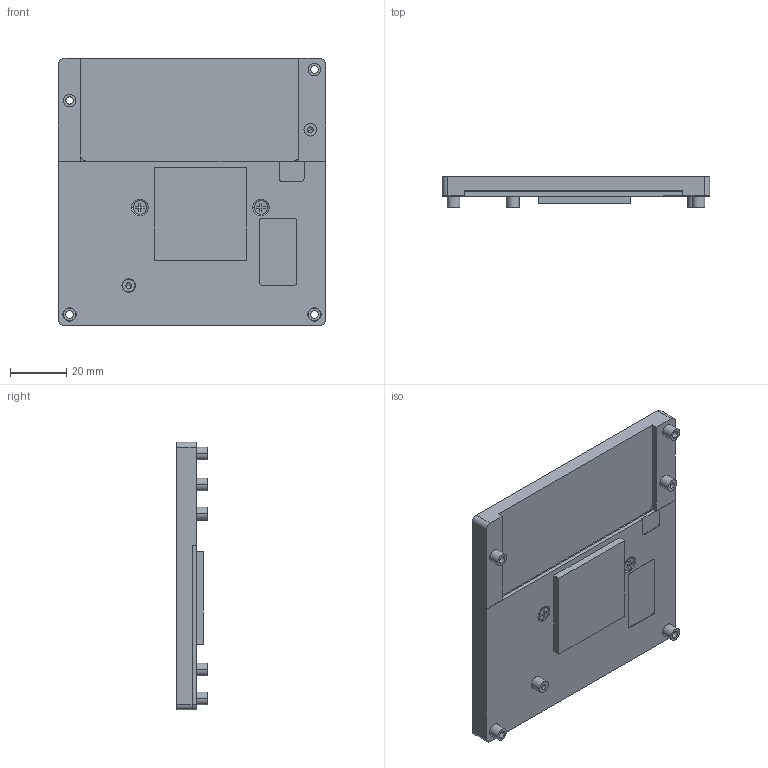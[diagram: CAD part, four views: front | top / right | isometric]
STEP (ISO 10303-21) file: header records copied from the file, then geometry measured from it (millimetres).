
FILE_DESCRIPTION((''),'2;1');
FILE_NAME('E19612X3150000R_ASM','2024-10-01T16:01:38',('gino_hsu'),(''),'CREO PARAMETRIC BY PTC INC, 2023294','CREO PARAMETRIC BY PTC INC, 2023294','');
FILE_SCHEMA(('CONFIG_CONTROL_DESIGN'));
Length unit declared in the file: millimetre
Products named in the file (4): ESM-KX60G-HEATSPREADER; ESM-KX60G-AU-1; E1931010411R; E19612X3150000R_ASM
Assembly tree (4 placements, depth 2):
  E19612X3150000R_ASM
    ESM-KX60G-HEATSPREADER
    ESM-KX60G-AU-1
    E1931010411R  x2
Bounding box: 95 x 11 x 95 mm (x, y, z)
Volume: 60102.3 mm3; surface area: 33369 mm2
Topology: 6 solids, 6 shells, 208 faces, 522 edges, 332 vertices
Faces by surface type: cylinder 96, plane 78, cone 24, bspline 10
Entity records: 6958 total; most frequent: CARTESIAN_POINT 2852, DIRECTION 848, ORIENTED_EDGE 810, EDGE_CURVE 405, AXIS2_PLACEMENT_3D 310, VERTEX_POINT 262, VECTOR 228, LINE 228
